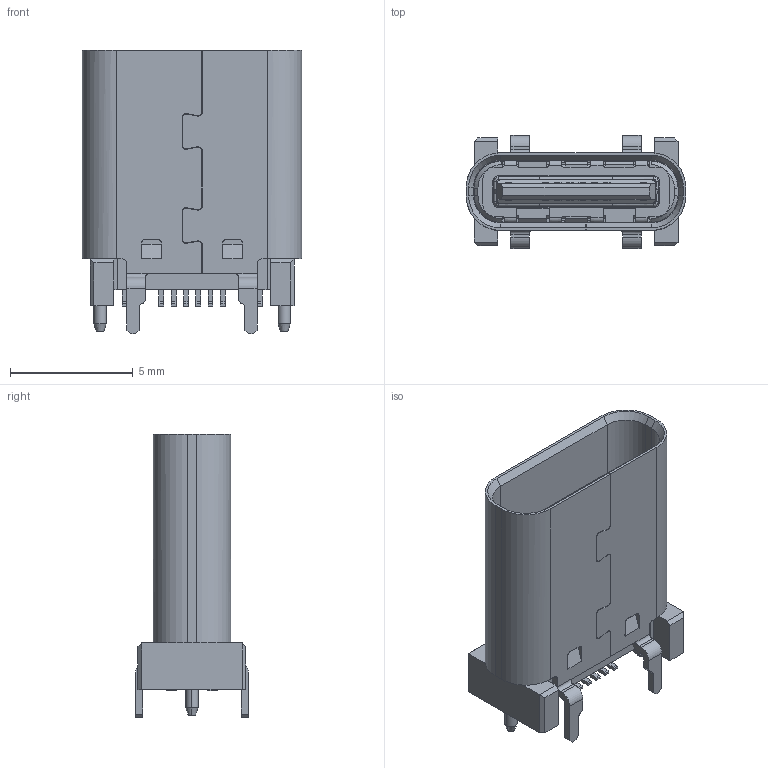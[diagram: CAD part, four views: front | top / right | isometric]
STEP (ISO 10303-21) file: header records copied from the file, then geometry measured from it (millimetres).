
FILE_DESCRIPTION((''),'2;1');
FILE_NAME('105','2024-01-24T',('888'),(''),'PRO/ENGINEER BY PARAMETRIC TECHNOLOGY CORPORATION, 2010480','PRO/ENGINEER BY PARAMETRIC TECHNOLOGY CORPORATION, 2010480','');
FILE_SCHEMA(('CONFIG_CONTROL_DESIGN'));
Length unit declared in the file: millimetre
Products named in the file (1): 105
Bounding box: 8.94 x 4.6 x 11.55 mm (x, y, z)
Volume: 153.8 mm3; surface area: 715.7 mm2
Topology: 1 solids, 2 shells, 826 faces, 2319 edges, 1514 vertices
Faces by surface type: plane 570, cylinder 224, cone 16, torus 12, bspline 4
Entity records: 26937 total; most frequent: CARTESIAN_POINT 5393, ORIENTED_EDGE 4638, DIRECTION 4298, EDGE_CURVE 2319, VECTOR 1746, LINE 1746, VERTEX_POINT 1514, AXIS2_PLACEMENT_3D 1276
